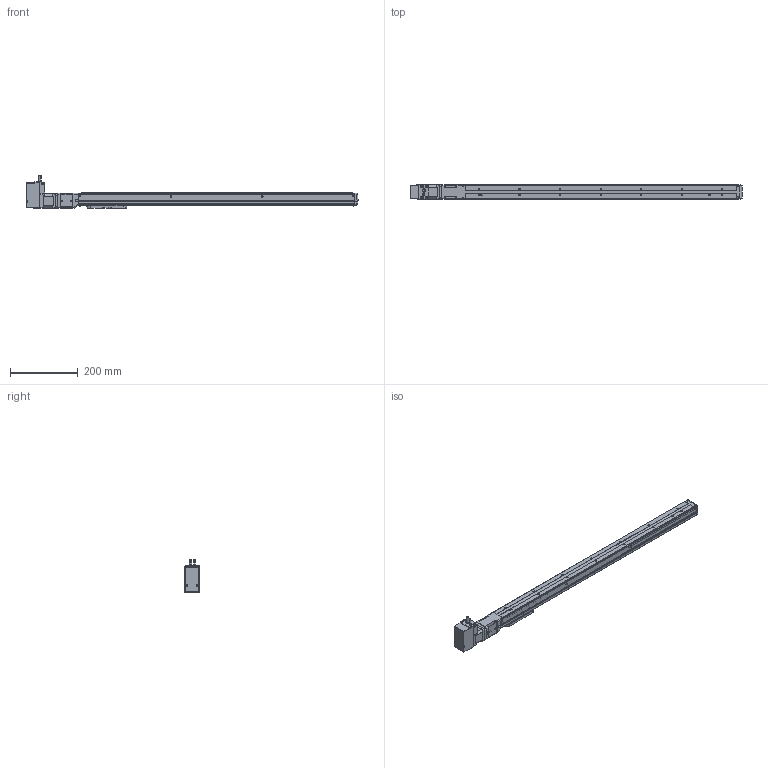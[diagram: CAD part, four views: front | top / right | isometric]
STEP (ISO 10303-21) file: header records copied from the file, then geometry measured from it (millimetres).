
FILE_DESCRIPTION(('FreeCAD Model'),'2;1');
FILE_NAME('Open CASCADE Shape Model','2023-08-01T18:12:22',('Author'),( ''),'Open CASCADE STEP processor 7.5','FreeCAD','Unknown');
FILE_SCHEMA(('AUTOMOTIVE_DESIGN { 1 0 10303 214 1 1 1 1 }'));
Length unit declared in the file: millimetre
Products named in the file (20): RCB0411; Shapes; Shapes001; Shapes002; Shapes003; Shapes004; Shapes005; Shapes006; Shapes007; Shapes008; Shapes009; Shapes010; Shapes011; Shapes012; Shapes013; KSF4-10-0650-0-AR(0); KSF4---(Cover); KSF4-AR---(Motor bracket); KSF4-10-0650---(slider); KSF4-10-0650-0-AR-(06500ARNo0)---(body)
Assembly tree (19 placements, depth 3):
  RCB0411
    Shapes
    Shapes001
    Shapes002
    Shapes003
    Shapes004
    Shapes005
    Shapes006
    Shapes007
    Shapes008
    Shapes009
    Shapes010
    Shapes011
    Shapes012
    Shapes013
    KSF4-10-0650-0-AR(0)
      KSF4---(Cover)
      KSF4-AR---(Motor bracket)
      KSF4-10-0650---(slider)
      KSF4-10-0650-0-AR-(06500ARNo0)---(body)
Bounding box: 982 x 45.4 x 97.64 mm (x, y, z)
Volume: 1561288 mm3; surface area: 293314.2 mm2
Topology: 18 solids, 18 shells, 1301 faces, 3354 edges, 2188 vertices
Faces by surface type: plane 719, cylinder 432, cone 68, torus 53, bspline 19, revolution 6, sphere 4
Full cylindrical faces by diameter (mm): 2.113 x8, 2.459 x3, 3 x6, 3.242 x4, 3.4 x18, 4 x3, 4.5 x2, 5.5 x8, 6 x1, 6.5 x20, 8 x1, 12 x1, 22 x1, 28 x1, 30 x2
Entity records: 94882 total; most frequent: CARTESIAN_POINT 27154, DIRECTION 12729, LINE 7559, VECTOR 7559, ORIENTED_EDGE 6672, PCURVE 6672, DEFINITIONAL_REPRESENTATION 6672, EDGE_CURVE 3336
